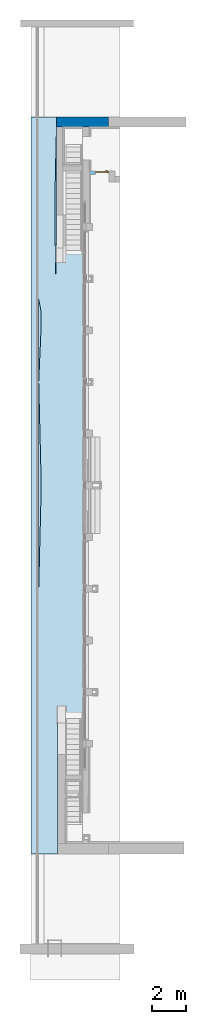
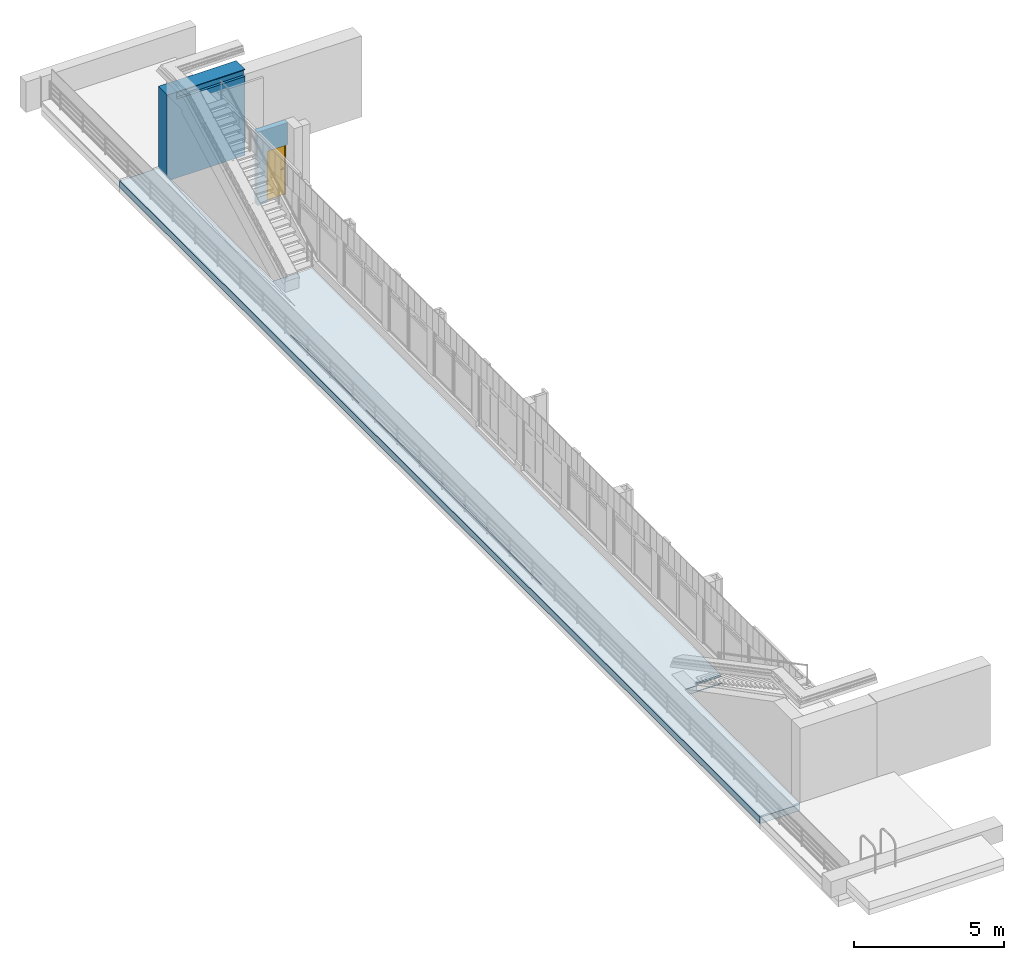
# One storey, part 12 of 16: 1 door, 1 roof, 1 wall, 1 opening, plus 1 element that does not belong to this part.
"""IFC2X3 building model written with IfcOpenShell, lengths in millimetres."""

import ifcopenshell
import ifcopenshell.guid

model = None  # the IFC model being written
_history = None  # IfcOwnerHistory: only IFC2X3 demands one
_inside = {}  # id of a spatial element -> (the spatial element, [elements in it])
_under = {}  # id of a project, library or spatial element -> (it, [spatial elements below it])
_declared = {}  # id of a project -> (the project, [libraries it declares])
_typed = {}  # id of a type object -> (the type object, [elements of that type])
_made_of = {}  # id of a material, layer set ... -> (it, [elements and type objects made of it])


def new_model(schema):
    """Start an empty IFC model of exactly this schema.

    Asked for "IFC4X3", IfcOpenShell would pick the latest addendum, in which some entities
    have other attributes; the version numbers below select the first issue.
    IFC2X3 requires an IfcOwnerHistory on every rooted entity: one is made here for all.
    """
    global model, _history
    if schema == "IFC4X3":
        model = ifcopenshell.file(schema_version=(4, 3, 0, 0))
    else:
        model = ifcopenshell.file(schema=schema)
    _inside.clear()
    _under.clear()
    _declared.clear()
    _typed.clear()
    _made_of.clear()
    _history = None
    if model.schema == "IFC2X3":
        org = make("IfcOrganization", Name="unknown")
        user = make(
            "IfcPersonAndOrganization",
            ThePerson=make("IfcPerson", FamilyName="unknown"),
            TheOrganization=org,
        )
        app = make(
            "IfcApplication",
            ApplicationDeveloper=org,
            Version="unknown",
            ApplicationFullName="unknown",
            ApplicationIdentifier="unknown",
        )
        _history = make(
            "IfcOwnerHistory",
            OwningUser=user,
            OwningApplication=app,
            ChangeAction="ADDED",
            CreationDate=0,
        )
    return model


def make(cls, **values):
    """One entity of the class cls with the attributes given. An attribute that is None is left unset."""
    return model.create_entity(
        cls, **{name: value for name, value in values.items() if value is not None}
    )


def entity(cls, *values):
    """Any entity or typed value of the class cls, its attributes in the order of the schema. None: left unset."""
    e = model.create_entity(cls)
    for i, value in enumerate(values):
        if value is not None:
            e[i] = value
    return e


def rooted(cls, **values):
    """An entity with a GlobalId (a new one), such as an element, a storey or a relation."""
    return make(cls, GlobalId=ifcopenshell.guid.new(), OwnerHistory=_history, **values)


def si_unit(unit_type, name, prefix=None):
    """IfcSIUnit, for example si_unit("LENGTHUNIT", "METRE", prefix="MILLI")."""
    return make("IfcSIUnit", UnitType=unit_type, Prefix=prefix, Name=name)


def converted_unit(unit_type, name, factor, base, dimensions=None, offset=None):
    """IfcConversionBasedUnit, such as the inch: factor (a typed value) times the base unit."""
    return make(
        "IfcConversionBasedUnit"
        if offset is None
        else "IfcConversionBasedUnitWithOffset",
        ConversionOffset=offset,
        Dimensions=None
        if dimensions is None
        else entity("IfcDimensionalExponents", *dimensions),
        UnitType=unit_type,
        Name=name,
        ConversionFactor=make(
            "IfcMeasureWithUnit", ValueComponent=factor, UnitComponent=base
        ),
    )


def derived_unit(unit_type, elements):
    """IfcDerivedUnit: a product of units, each with its exponent."""
    return make(
        "IfcDerivedUnit",
        Elements=[
            make("IfcDerivedUnitElement", Unit=unit, Exponent=power)
            for unit, power in elements
        ],
        UnitType=unit_type,
    )


def assignment(units):
    """IfcUnitAssignment: the units of a project."""
    return None if units is None else make("IfcUnitAssignment", Units=units)


def point(xyz):
    """IfcCartesianPoint."""
    return None if xyz is None else make("IfcCartesianPoint", Coordinates=xyz)


def direction(xyz):
    """IfcDirection."""
    return None if xyz is None else make("IfcDirection", DirectionRatios=xyz)


def frame(location, z_axis=None, x_axis=None):
    """IfcAxis2Placement3D, a coordinate frame: its origin and axes. An axis left out is left unset."""
    return make(
        "IfcAxis2Placement3D",
        Location=point(location),
        Axis=direction(z_axis),
        RefDirection=direction(x_axis),
    )


def frame_2d(location, x_axis=None):
    """IfcAxis2Placement2D, a coordinate frame in the plane: its origin and x axis."""
    return make(
        "IfcAxis2Placement2D", Location=point(location), RefDirection=direction(x_axis)
    )


def origin():
    """The frame at (0, 0, 0) with its axes left unset."""
    return frame((0.0, 0.0, 0.0))


def place(relative_to, where):
    """IfcLocalPlacement: puts the frame where relative to a parent placement (None: the world)."""
    return make(
        "IfcLocalPlacement", PlacementRelTo=relative_to, RelativePlacement=where
    )


def context(
    kind, dimensions, precision=None, world=None, true_north=None, identifier=None
):
    """IfcGeometricRepresentationContext, for example the 3D "Model" context."""
    return make(
        "IfcGeometricRepresentationContext",
        ContextIdentifier=identifier,
        ContextType=kind,
        CoordinateSpaceDimension=dimensions,
        Precision=precision,
        WorldCoordinateSystem=world,
        TrueNorth=true_north,
    )


def subcontext(parent, identifier, kind, view, scale=None):
    """IfcGeometricRepresentationSubContext, for example "Body" below "Model"."""
    return make(
        "IfcGeometricRepresentationSubContext",
        ContextIdentifier=identifier,
        ContextType=kind,
        ParentContext=parent,
        TargetScale=scale,
        TargetView=view,
    )


def project(units=None, contexts=None):
    """IfcProject with its units and contexts."""
    return rooted(
        "IfcProject",
        Name="project",
        RepresentationContexts=contexts,
        UnitsInContext=assignment(units),
    )


def spatial(cls, under=None, at=None, **own):
    """A site, building, storey or space (cls), placed at a placement, below another one or the project."""
    s = rooted(cls, ObjectPlacement=at, **own)
    if under is not None:
        _under.setdefault(under.id(), (under, []))[1].append(s)
    return s


def profile(cls, at=None, kind="AREA", **sizes):
    """A parametric profile (cls). Its sizes go by their IFC names, for example OverallWidth=200.0."""
    return make(cls, ProfileType=kind, Position=at, **sizes)


def rectangle(**sizes):
    """IfcRectangleProfileDef."""
    return profile("IfcRectangleProfileDef", **sizes)


def extrude(swept, where, along, depth):
    """IfcExtrudedAreaSolid: the profile swept, set in the frame where, extruded along a direction by depth."""
    return make(
        "IfcExtrudedAreaSolid",
        SweptArea=swept,
        Position=where,
        ExtrudedDirection=direction(along),
        Depth=depth,
    )


def faces_of(points, faces, orient=None, outer=None):
    """IfcFace entities. A face is a list of loops; a loop is a list of indices into points, from 0.

    orient and outer hold one flag for each loop. By default every Orientation is true, the
    first loop of a face is its IfcFaceOuterBound and the others are IfcFaceBound.
    """
    made = []
    for i, loops in enumerate(faces):
        bounds = []
        for j, loop in enumerate(loops):
            is_outer = j == 0 if outer is None else outer[i][j]
            bounds.append(
                make(
                    "IfcFaceOuterBound" if is_outer else "IfcFaceBound",
                    Bound=make("IfcPolyLoop", Polygon=[points[k] for k in loop]),
                    Orientation=True if orient is None else orient[i][j],
                )
            )
        made.append(make("IfcFace", Bounds=bounds))
    return made


def faceted_brep(points, faces, orient=None, outer=None, voids=None):
    """IfcFacetedBrep: a solid bounded by flat faces; with voids (closed shells), ...WithVoids."""
    shared = [point(p) for p in points]
    hull = make("IfcClosedShell", CfsFaces=faces_of(shared, faces, orient, outer))
    if voids is None:
        return make("IfcFacetedBrep", Outer=hull)
    return make(
        "IfcFacetedBrepWithVoids",
        Outer=hull,
        Voids=[
            make(cls, CfsFaces=faces_of(shared, fs, o, b)) for cls, fs, o, b in voids
        ],
    )


def shape(context_of_items, identifier, shape_type, items):
    """IfcShapeRepresentation: the items that make up one representation, for example the "Body"."""
    return make(
        "IfcShapeRepresentation",
        ContextOfItems=context_of_items,
        RepresentationIdentifier=identifier,
        RepresentationType=shape_type,
        Items=items,
    )


def source(mapping_origin, context_of_items, identifier, shape_type, items):
    """IfcRepresentationMap: a shape defined once, which mapped items show again and again."""
    return make(
        "IfcRepresentationMap",
        MappingOrigin=mapping_origin,
        MappedRepresentation=shape(context_of_items, identifier, shape_type, items),
    )


def transform(
    local_origin,
    x_axis=None,
    y_axis=None,
    z_axis=None,
    scale=None,
    scale2=None,
    scale3=None,
    uniform=True,
):
    """IfcCartesianTransformationOperator3D, or its non-uniform kind. x_axis, y_axis, z_axis: its Axis1, 2, 3."""
    if uniform:
        return make(
            "IfcCartesianTransformationOperator3D",
            Axis1=direction(x_axis),
            Axis2=direction(y_axis),
            LocalOrigin=point(local_origin),
            Scale=scale,
            Axis3=direction(z_axis),
        )
    return make(
        "IfcCartesianTransformationOperator3DnonUniform",
        Axis1=direction(x_axis),
        Axis2=direction(y_axis),
        LocalOrigin=point(local_origin),
        Scale=scale,
        Axis3=direction(z_axis),
        Scale2=scale2,
        Scale3=scale3,
    )


def mapped(mapping_source, mapping_target):
    """IfcMappedItem: shows the shape of a source again, moved by a transform."""
    return make(
        "IfcMappedItem", MappingSource=mapping_source, MappingTarget=mapping_target
    )


def material(Name=None, Category=None):
    """IfcMaterial."""
    return make("IfcMaterial", Name=Name, Category=Category)


def material_list(materials):
    """IfcMaterialList."""
    return make("IfcMaterialList", Materials=materials)


def layer(
    of_material, thickness, ventilated=None, Name=None, Category=None, Priority=None
):
    """IfcMaterialLayer: one layer of a wall or slab, of a material (None: an air gap)."""
    return make(
        "IfcMaterialLayer",
        Material=of_material,
        LayerThickness=thickness,
        IsVentilated=ventilated,
        Name=Name,
        Category=Category,
        Priority=Priority,
    )


def layer_set(layers, Name=None):
    """IfcMaterialLayerSet."""
    return make("IfcMaterialLayerSet", MaterialLayers=layers, LayerSetName=Name)


def layer_usage(for_layer_set, set_direction, sense, offset, extent=None):
    """IfcMaterialLayerSetUsage: how a layer set lies in its element."""
    return make(
        "IfcMaterialLayerSetUsage",
        ForLayerSet=for_layer_set,
        LayerSetDirection=set_direction,
        DirectionSense=sense,
        OffsetFromReferenceLine=offset,
        ReferenceExtent=extent,
    )


def made_of(thing, what):
    """Note that an element or type object is made of a material, layer set ...; save() writes the relation."""
    if what is not None:
        _made_of.setdefault(what.id(), (what, []))[1].append(thing)
    return thing


def type_object(cls, material=None, **own):
    """A type object (cls), such as IfcWallType, which elements share."""
    return made_of(rooted(cls, **own), material)


def type_shapes(of_type, sources):
    """Give a type object the sources (RepresentationMaps) that its elements show as mapped items."""
    of_type.RepresentationMaps = sources


def element(
    cls,
    number,
    at=None,
    inside=None,
    cuts=None,
    type_object=None,
    material=None,
    context=None,
    identifier="Body",
    shape_type=None,
    held_by="IfcProductDefinitionShape",
    body=None,
    shapes=None,
    **own,
):
    """One element of the class cls, such as IfcWall. Its Tag is "e" and its number.

    at: its placement. inside: the storey or other place that contains it. cuts: it is an
    opening in that element (IfcRelVoidsElement). A single representation is given by context,
    identifier, shape_type and body (its items); several are given by shapes. held_by: the class
    of the entity that holds the representations. save() writes the other relations.
    """
    e = rooted(cls, Tag="e%d" % number, ObjectPlacement=at, **own)
    if body is not None:
        shapes = [shape(context, identifier, shape_type, body)]
    if shapes is not None:
        e.Representation = make(held_by, Representations=shapes)
    if inside is not None:
        _inside.setdefault(inside.id(), (inside, []))[1].append(e)
    if cuts is not None:
        rooted(
            "IfcRelVoidsElement", RelatingBuildingElement=cuts, RelatedOpeningElement=e
        )
    if type_object is not None:
        _typed.setdefault(type_object.id(), (type_object, []))[1].append(e)
    return made_of(e, material)


def fill(opening, filler):
    """IfcRelFillsElement: the door or window that sits in an opening."""
    return rooted(
        "IfcRelFillsElement",
        RelatingOpeningElement=opening,
        RelatedBuildingElement=filler,
    )


def aggregate(whole, parts):
    """IfcRelAggregates: a whole, such as a stair, and the parts it consists of."""
    return rooted("IfcRelAggregates", RelatingObject=whole, RelatedObjects=parts)


def save(model, path):
    """Write the relations noted so far, then the file.

    IfcRelAggregates (storeys below a building ...), IfcRelContainedInSpatialStructure (elements
    in a storey), IfcRelDefinesByType, IfcRelAssociatesMaterial and IfcRelDeclares: one each for
    every whole, place, type object, material and project.
    """
    for whole, parts in _under.values():
        aggregate(whole, parts)
    for where, things in _inside.values():
        rooted(
            "IfcRelContainedInSpatialStructure",
            RelatedElements=things,
            RelatingStructure=where,
        )
    for kind, things in _typed.values():
        rooted("IfcRelDefinesByType", RelatedObjects=things, RelatingType=kind)
    for what, things in _made_of.values():
        rooted("IfcRelAssociatesMaterial", RelatedObjects=things, RelatingMaterial=what)
    for by, libraries in _declared.values():
        rooted("IfcRelDeclares", RelatingContext=by, RelatedDefinitions=libraries)
    model.write(path)


model = new_model("IFC2X3")

# Units and contexts
model_context = context("Model", 3, precision=0.01, world=origin(), true_north=direction((6.123031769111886e-17, 1.0)))
body_context = subcontext(model_context, "Body", "Model", "MODEL_VIEW")
ifc_project = project(units=[si_unit("LENGTHUNIT", "METRE", prefix="MILLI"), si_unit("AREAUNIT", "SQUARE_METRE"), si_unit("VOLUMEUNIT", "CUBIC_METRE"), converted_unit("PLANEANGLEUNIT", "DEGREE", entity("IfcPlaneAngleMeasure", 0.017453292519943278), si_unit("PLANEANGLEUNIT", "RADIAN"), dimensions=[0, 0, 0, 0, 0, 0, 0]), si_unit("MASSUNIT", "GRAM", prefix="KILO"), derived_unit("MASSDENSITYUNIT", [(si_unit("MASSUNIT", "GRAM", prefix="KILO"), 1), (si_unit("LENGTHUNIT", "METRE"), -3)]), derived_unit("IONCONCENTRATIONUNIT", [(si_unit("MASSUNIT", "GRAM", prefix="KILO"), 1), (si_unit("LENGTHUNIT", "METRE"), -3)]), derived_unit("MOMENTOFINERTIAUNIT", [(si_unit("LENGTHUNIT", "METRE"), 4)]), si_unit("TIMEUNIT", "SECOND"), si_unit("FREQUENCYUNIT", "HERTZ"), si_unit("THERMODYNAMICTEMPERATUREUNIT", "DEGREE_CELSIUS"), derived_unit("THERMALTRANSMITTANCEUNIT", [(si_unit("MASSUNIT", "GRAM", prefix="KILO"), 1), (si_unit("THERMODYNAMICTEMPERATUREUNIT", "KELVIN"), -1), (si_unit("TIMEUNIT", "SECOND"), -3)]), derived_unit("THERMALCONDUCTANCEUNIT", [(si_unit("MASSUNIT", "GRAM", prefix="KILO"), 1), (si_unit("THERMODYNAMICTEMPERATUREUNIT", "KELVIN"), -1), (si_unit("TIMEUNIT", "SECOND"), -3), (si_unit("LENGTHUNIT", "METRE"), 1)]), derived_unit("VOLUMETRICFLOWRATEUNIT", [(si_unit("LENGTHUNIT", "METRE", prefix="DECI"), 3), (si_unit("TIMEUNIT", "SECOND"), -1)]), derived_unit("MASSFLOWRATEUNIT", [(si_unit("MASSUNIT", "GRAM", prefix="KILO"), 1), (si_unit("TIMEUNIT", "SECOND"), -1)]), derived_unit("ROTATIONALFREQUENCYUNIT", [(si_unit("TIMEUNIT", "SECOND"), -1)]), si_unit("ELECTRICCURRENTUNIT", "AMPERE"), si_unit("ELECTRICVOLTAGEUNIT", "VOLT"), si_unit("POWERUNIT", "WATT"), si_unit("FORCEUNIT", "NEWTON", prefix="KILO"), si_unit("ILLUMINANCEUNIT", "LUX"), si_unit("LUMINOUSFLUXUNIT", "LUMEN"), si_unit("LUMINOUSINTENSITYUNIT", "CANDELA"), si_unit("ENERGYUNIT", "JOULE"), derived_unit("USERDEFINED", [(si_unit("MASSUNIT", "GRAM", prefix="KILO"), -1), (si_unit("LENGTHUNIT", "METRE"), -2), (si_unit("TIMEUNIT", "SECOND"), 3), (si_unit("LUMINOUSFLUXUNIT", "LUMEN"), 1)]), derived_unit("USERDEFINED", [(si_unit("MASSUNIT", "GRAM", prefix="KILO"), 1), (si_unit("TIMEUNIT", "SECOND"), -3), (si_unit("LENGTHUNIT", "METRE"), 3), (si_unit("ELECTRICCURRENTUNIT", "AMPERE"), -2)]), derived_unit("SOUNDPOWERUNIT", [(si_unit("MASSUNIT", "GRAM", prefix="KILO"), 1), (si_unit("TIMEUNIT", "SECOND"), -3), (si_unit("LENGTHUNIT", "METRE"), 2)]), derived_unit("SOUNDPRESSUREUNIT", [(si_unit("MASSUNIT", "GRAM", prefix="KILO"), 1), (si_unit("LENGTHUNIT", "METRE"), -1), (si_unit("TIMEUNIT", "SECOND"), -2)]), derived_unit("LINEARVELOCITYUNIT", [(si_unit("LENGTHUNIT", "METRE"), 1), (si_unit("TIMEUNIT", "SECOND"), -1)]), si_unit("PRESSUREUNIT", "PASCAL"), derived_unit("USERDEFINED", [(si_unit("MASSUNIT", "GRAM", prefix="KILO"), 1), (si_unit("LENGTHUNIT", "METRE"), -2), (si_unit("TIMEUNIT", "SECOND"), -2)]), derived_unit("LINEARFORCEUNIT", [(si_unit("MASSUNIT", "GRAM", prefix="KILO"), 1), (si_unit("TIMEUNIT", "SECOND"), -2)]), derived_unit("PLANARFORCEUNIT", [(si_unit("MASSUNIT", "GRAM", prefix="KILO"), 1), (si_unit("LENGTHUNIT", "METRE"), -1), (si_unit("TIMEUNIT", "SECOND"), -2)]), derived_unit("SPECIFICHEATCAPACITYUNIT", [(si_unit("THERMODYNAMICTEMPERATUREUNIT", "KELVIN"), -1), (si_unit("LENGTHUNIT", "METRE"), 2), (si_unit("TIMEUNIT", "SECOND"), -2)]), derived_unit("HEATFLUXDENSITYUNIT", [(si_unit("MASSUNIT", "GRAM", prefix="KILO"), 1), (si_unit("TIMEUNIT", "SECOND"), -3)]), derived_unit("HEATINGVALUEUNIT", [(si_unit("LENGTHUNIT", "METRE"), 2), (si_unit("TIMEUNIT", "SECOND"), -2)]), derived_unit("VAPORPERMEABILITYUNIT", [(si_unit("LENGTHUNIT", "METRE"), -1), (si_unit("TIMEUNIT", "SECOND"), 1)]), derived_unit("DYNAMICVISCOSITYUNIT", [(si_unit("MASSUNIT", "GRAM", prefix="KILO"), 1), (si_unit("TIMEUNIT", "SECOND"), -1), (si_unit("LENGTHUNIT", "METRE"), -1)]), derived_unit("THERMALEXPANSIONCOEFFICIENTUNIT", [(si_unit("THERMODYNAMICTEMPERATUREUNIT", "KELVIN"), -1)]), derived_unit("MODULUSOFELASTICITYUNIT", [(si_unit("MASSUNIT", "GRAM", prefix="KILO"), 1), (si_unit("LENGTHUNIT", "METRE"), -1), (si_unit("TIMEUNIT", "SECOND"), -2)]), derived_unit("ISOTHERMALMOISTURECAPACITYUNIT", [(si_unit("MASSUNIT", "GRAM", prefix="KILO"), -1), (si_unit("LENGTHUNIT", "METRE"), 3)]), derived_unit("MOISTUREDIFFUSIVITYUNIT", [(si_unit("TIMEUNIT", "SECOND"), -1), (si_unit("LENGTHUNIT", "METRE"), 2)]), derived_unit("MASSPERLENGTHUNIT", [(si_unit("MASSUNIT", "GRAM", prefix="KILO"), 1), (si_unit("LENGTHUNIT", "METRE"), -1)]), derived_unit("THERMALRESISTANCEUNIT", [(si_unit("MASSUNIT", "GRAM", prefix="KILO"), -1), (si_unit("TIMEUNIT", "SECOND"), 3), (si_unit("THERMODYNAMICTEMPERATUREUNIT", "KELVIN"), 1)]), derived_unit("ACCELERATIONUNIT", [(si_unit("LENGTHUNIT", "METRE"), 1), (si_unit("TIMEUNIT", "SECOND"), -2)]), derived_unit("ANGULARVELOCITYUNIT", [(si_unit("TIMEUNIT", "SECOND"), -1), (si_unit("PLANEANGLEUNIT", "RADIAN"), 1)]), derived_unit("LINEARSTIFFNESSUNIT", [(si_unit("MASSUNIT", "GRAM", prefix="KILO"), 1), (si_unit("TIMEUNIT", "SECOND"), -2)]), derived_unit("WARPINGCONSTANTUNIT", [(si_unit("LENGTHUNIT", "METRE"), 6)]), derived_unit("LINEARMOMENTUNIT", [(si_unit("MASSUNIT", "GRAM", prefix="KILO"), 1), (si_unit("LENGTHUNIT", "METRE"), 1), (si_unit("TIMEUNIT", "SECOND"), -2)]), derived_unit("TORQUEUNIT", [(si_unit("MASSUNIT", "GRAM", prefix="KILO"), 1), (si_unit("LENGTHUNIT", "METRE"), 2), (si_unit("TIMEUNIT", "SECOND"), -2)])], contexts=[model_context])

# Site, building, storey
site_placement = place(None, origin())
site = spatial("IfcSite", under=ifc_project, at=site_placement, Name="Default", CompositionType="ELEMENT")
building_placement = place(site_placement, origin())
building = spatial("IfcBuilding", under=site, at=building_placement, Name="Eesti Rahvusraamatukogu hoone renoveerimise projekteerimistööd", CompositionType="ELEMENT")
storey_placement = place(building_placement, frame((0.0, 0.0, 8250.000000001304)))
storey = spatial("IfcBuildingStorey", under=building, at=storey_placement, Name="3. korrus", CompositionType="ELEMENT", Elevation=8250.000000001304)

# Wall
ifc_material_1 = material(Name="ol. olev materjal")
ifc_layer_1 = layer(ifc_material_1, 590.0)
ifc_layer_set_1 = layer_set([ifc_layer_1], Name="Basic Wall:ol. olev - 590mm")
wall_type_1 = type_object("IfcWallType", Name="Basic Wall:ol. olev - 590mm", PredefinedType="STANDARD", material=ifc_layer_set_1)
wall_1_placement = place(storey_placement, frame((-35280.0, 48485.0, 0.0)))
element("IfcWall", 1, at=wall_1_placement, inside=storey, type_object=wall_type_1, Name="Basic Wall:ol. olev - 590mm", ObjectType="Basic Wall:ol. olev - 590mm", context=body_context, shape_type="Brep", body=[
    faceted_brep([(0.0, -295.0, 0.0), (360.0, -295.0, 0.0), (1510.0, -295.0, 0.0), (1890.0, -295.0, 0.0), (3000.0, -295.0, 0.0), (3000.0, -295.0, 3220.0), (360.0, -295.0, 3220.0), (360.0, -295.0, 3490.0), (555.5040098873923, -295.0, 3490.0), (671.9585479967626, -295.0, 3487.7026089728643), (2868.1415929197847, -295.0, 3486.439720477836), (2997.478727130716, -295.0, 3488.1395348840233), (3000.0, -295.0, 3489.371683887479), (3000.0, -295.0, 3510.0), (360.0, -295.0, 3510.0), (0.0, -295.0, 3510.0), (3000.0, 295.0, 0.0), (0.0, 295.0, 0.0), (0.0, 295.0, 3510.0), (3000.0, 295.0, 3510.0), (3000.0, 295.0, 3300.0), (3000.0, -235.0, 3510.0), (0.0, -235.0, 3510.0), (3000.0, -195.0, 3490.0), (3000.0, -195.0, 3220.0), (360.0, -195.0, 3220.0), (360.0, -195.0, 3490.0), (556.561291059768, -233.64219009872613, 3490.0)], [[[0, 1, 2, 3, 4, 5, 6, 7, 8, 9, 10, 11, 12, 13, 14, 15]], [[16, 17, 18, 19, 20]], [[4, 3, 2, 1, 0, 17, 16]], [[15, 14, 13, 21, 19, 18, 22]], [[0, 15, 22, 18, 17]], [[4, 16, 20, 19, 21, 13, 12, 23, 24, 5]], [[24, 25, 6, 5]], [[25, 24, 23, 26]], [[25, 26, 7, 6]], [[11, 23, 12]], [[23, 11, 10]], [[27, 9, 8]], [[27, 23, 10, 9]], [[26, 23, 27, 8, 7]]]),
])

# Wall, opening, door
ifc_layer_2 = layer(ifc_material_1, 200.0)
ifc_layer_set_2 = layer_set([ifc_layer_2], Name="Basic Wall:ol. olev - 200mm")
ifc_layer_usage = layer_usage(ifc_layer_set_2, "AXIS2", "NEGATIVE", 100.0)
wall_type_2 = type_object("IfcWallType", Name="Basic Wall:ol. olev - 200mm", PredefinedType="STANDARD", material=ifc_layer_set_2)
wall_2_placement = place(storey_placement, frame((-32230.0, 45530.0, 0.0), z_axis=(0.0, 0.0, 1.0), x_axis=(-1.0, 0.0, 0.0)))
wall_2 = element("IfcWallStandardCase", 2, at=wall_2_placement, inside=storey, type_object=wall_type_2, material=ifc_layer_usage, Name="Basic Wall:ol. olev - 200mm", ObjectType="Basic Wall:ol. olev - 200mm", context=body_context, shape_type="SweptSolid", body=[
    extrude(rectangle(XDim=1160.0000000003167, YDim=200.0000000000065, at=frame_2d((580.0000000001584, -7.958078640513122e-13), x_axis=(-1.0, 0.0))), origin(), (0.0, 0.0, 1.0), 3000.0000000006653),
])
opening_placement = place(wall_2_placement, frame((800.0, 100.0, 0.0)))
opening = element("IfcOpeningElement", 3, at=opening_placement, cuts=wall_2, Name="SMA_D01, 1-poolne:ol. olev MKU-15 - 800x2100:1", ObjectType="Opening", context=body_context, shape_type="SweptSolid", body=[
    extrude(rectangle(XDim=2099.999999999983, YDim=799.9999999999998, at=frame_2d((1049.999999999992, 400.0000000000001), x_axis=(1.0, 0.0))), frame((0.0, 0.0, 0.0), z_axis=(0.0, -1.0, 0.0), x_axis=(0.0, 0.0, 1.0)), (0.0, 0.0, 1.0), 200.0),
])
ifc_material_2 = material(Name="EST. Metall. Alumiinium. Värvitud.")
ifc_material_3 = material(Name="ol. olev - voolikukapp, MK uksed, elemendid")
ifc_material_list = material_list([ifc_material_2, ifc_material_3])
door_style = type_object("IfcDoorStyle", Name="SMA_D01, 1-poolne:ol. olev MKU-15 - 800x2100", ConstructionType="NOTDEFINED", OperationType="NOTDEFINED", ParameterTakesPrecedence=False, Sizeable=False, material=ifc_material_list)
shared_shape = source(origin(), body_context, "Body", "Brep", [
    faceted_brep([(690.0, 90.0, 1112.5), (595.0, 90.0, 1112.5), (595.0, 85.0, 1112.5), (715.0, 85.0, 1112.5), (715.0, 128.0, 1112.5), (690.0, 128.0, 1112.5), (690.0, 90.0, 1087.5), (690.0, 128.0, 1087.5), (715.0, 128.0, 1087.5), (715.0, 85.0, 1087.5), (595.0, 85.0, 1087.5), (595.0, 90.0, 1087.5)], [[[0, 1, 2, 3, 4, 5]], [[6, 7, 8, 9, 10, 11]], [[5, 7, 6, 0]], [[4, 8, 7, 5]], [[3, 9, 8, 4]], [[2, 10, 9, 3]], [[1, 11, 10, 2]], [[0, 6, 11, 1]]]),
    faceted_brep([(677.5000000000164, 128.0, 1137.5), (727.5000000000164, 128.0, 1137.5), (727.5000000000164, 130.0, 1137.5), (677.5000000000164, 130.0, 1137.5), (677.5000000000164, 128.0, 1017.5), (677.5000000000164, 130.0, 1017.5), (727.5000000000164, 130.0, 1017.5), (727.5000000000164, 128.0, 1017.5)], [[[0, 1, 2, 3]], [[4, 5, 6, 7]], [[3, 5, 4, 0]], [[2, 6, 5, 3]], [[1, 7, 6, 2]], [[0, 4, 7, 1]]]),
    faceted_brep([(690.0, 220.0, 1112.5), (690.0, 182.0, 1112.5), (715.0, 182.0, 1112.5), (715.0, 225.0, 1112.5), (595.0, 225.0, 1112.5), (595.0, 220.0, 1112.5), (690.0, 220.0, 1087.5), (595.0, 220.0, 1087.5), (595.0, 225.0, 1087.5), (715.0, 225.0, 1087.5), (715.0, 182.0, 1087.5), (690.0, 182.0, 1087.5)], [[[0, 1, 2, 3, 4, 5]], [[6, 7, 8, 9, 10, 11]], [[1, 0, 6, 11]], [[2, 1, 11, 10]], [[3, 2, 10, 9]], [[4, 3, 9, 8]], [[5, 4, 8, 7]], [[0, 5, 7, 6]]]),
    faceted_brep([(677.5000000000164, 182.0, 1137.5), (677.5000000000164, 180.0, 1137.5), (727.5000000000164, 180.0, 1137.5), (727.5000000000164, 182.0, 1137.5), (677.5000000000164, 182.0, 1017.5), (727.5000000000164, 182.0, 1017.5), (727.5000000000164, 180.0, 1017.5), (677.5000000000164, 180.0, 1017.5)], [[[0, 1, 2, 3]], [[4, 5, 6, 7]], [[1, 0, 4, 7]], [[2, 1, 7, 6]], [[3, 2, 6, 5]], [[0, 3, 5, 4]]]),
    faceted_brep([(10.0, 90.0, 0.0), (10.0, 180.0, 0.0), (35.0, 180.0, 0.0), (35.0, 130.0, 0.0), (50.0, 130.0, 0.0), (50.0, 90.0, 0.0), (50.0, 90.0, 2050.0), (750.0, 90.0, 2050.0), (750.0, 90.0, 0.0), (790.0, 90.0, 0.0), (790.0, 90.0, 2090.0), (10.0, 90.0, 2090.0), (50.0, 130.0, 2050.0), (35.0, 130.0, 2065.0), (765.0, 130.0, 2065.0), (765.0, 130.0, 0.0), (750.0, 130.0, 0.0), (750.0, 130.0, 2050.0), (35.0, 180.0, 2065.0), (10.0, 180.0, 2090.0), (790.0, 180.0, 2090.0), (790.0, 180.0, 0.0), (765.0, 180.0, 0.0), (765.0, 180.0, 2065.0)], [[[0, 1, 2, 3, 4, 5]], [[5, 6, 7, 8, 9, 10, 11, 0]], [[4, 12, 6, 5]], [[3, 13, 14, 15, 16, 17, 12, 4]], [[2, 18, 13, 3]], [[1, 19, 20, 21, 22, 23, 18, 2]], [[0, 11, 19, 1]], [[9, 21, 20, 10]], [[8, 16, 15, 22, 21, 9]], [[7, 17, 16, 8]], [[14, 23, 22, 15]], [[6, 12, 17, 7]], [[13, 18, 23, 14]], [[10, 20, 19, 11]]]),
    faceted_brep([(765.0, 130.0, 2065.0), (35.0, 130.0, 2065.0), (35.0, 130.0, 20.0), (765.0, 130.0, 20.0), (765.0, 180.0, 2065.0), (765.0, 180.0, 20.0), (35.0, 180.0, 20.0), (35.0, 180.0, 2065.0)], [[[0, 1, 2, 3]], [[4, 5, 6, 7]], [[3, 5, 4, 0]], [[2, 6, 5, 3]], [[1, 7, 6, 2]], [[0, 4, 7, 1]]]),
])
type_shapes(door_style, [shared_shape])
door_placement = place(opening_placement, frame((0.0, 0.0, 0.0), z_axis=(0.0, 0.0, 1.0), x_axis=(-1.0, 0.0, 0.0)))
door = element("IfcDoor", 4, at=door_placement, inside=storey, type_object=door_style, material=ifc_material_list, Name="SMA_D01, 1-poolne:ol. olev MKU-15 - 800x2100", ObjectType="SMA_D01, 1-poolne:ol. olev MKU-15 - 800x2100", OverallHeight=2099.999999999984, OverallWidth=800.0, context=body_context, shape_type="MappedRepresentation", body=[
    mapped(shared_shape, transform((0.0, 0.0, 0.0), scale=1.0)),
])
fill(opening, door)

# Roof
ifc_material_4 = material(Name="EST. Betoon. Kohtvalu")
ifc_layer_3 = layer(ifc_material_4, 50.0)
ifc_material_5 = material(Name="EST. Soojustus. EPS 100 kaldekiht, PIR Kingspan Therma TP10 100mm")
ifc_layer_4 = layer(ifc_material_5, 220.0)
ifc_layer_set_3 = layer_set([ifc_layer_3, ifc_layer_4], Name="Basic Roof:KL-20 - käidav, betoonplaat")
roof_placement = place(storey_placement, frame((-36780.0, 6002.660586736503, -80.0)))
element("IfcRoof", 5, at=roof_placement, inside=storey, material=ifc_layer_set_3, Name="Basic Roof:KL-20 - käidav, betoonplaat", ObjectType="Basic Roof:KL-20 - käidav, betoonplaat", ShapeType="NOTDEFINED", context=body_context, shape_type="Brep", body=[
    faceted_brep([(1540.0, 0.0, 0.0), (0.0, 0.0, 0.0), (0.0, 42777.33941326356, 0.0), (1500.0, 42777.33941326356, 0.0), (1500.0, 39627.33941326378, 0.0), (1500.0000000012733, 35157.33941326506, 0.0), (1860.0, 35157.33941326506, 0.0), (1860.0, 34797.22392809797, 0.0), (3010.0, 34797.223928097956, 0.0), (3010.0, 8242.082541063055, 0.0), (2000.0, 8242.082541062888, 0.0), (2000.0, 7765.223984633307, 0.0), (3010.0, 7765.223984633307, 0.0), (3010.0, 7695.753377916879, 0.0), (1540.0, 7695.753377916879, 0.0), (1540.0, 4587.339413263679, 0.0), (0.0, 42777.33941326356, 270.0), (456.0000000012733, 42777.33941326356, 260.0), (1500.0, 42777.33941326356, 270.0), (0.0, 0.0, 270.0), (0.0, 15387.33941326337, 270.0), (0.0, 27387.339413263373, 270.0), (0.0, 32187.339413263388, 270.0), (3010.0, 7722.851771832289, 270.0), (3010.0, 35157.33941326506, 189.66082218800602), (3010.0, 35157.33941326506, 195.31187911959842), (3010.0, 35157.33941326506, 270.0), (3010.0, 35149.78200138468, 270.0), (3010.0, 32187.339413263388, 270.0), (3010.0, 27387.339413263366, 270.0), (3010.0, 15387.339413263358, 270.0), (3010.0, 7954.37311074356, 270.0), (3010.0, 7843.451814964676, 270.0), (3010.0, 7843.451814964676, 212.92357869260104), (3010.0, 7733.689466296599, 270.0), (1540.0, 0.0, 270.0), (456.0000000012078, 0.0, 260.0), (1500.0, 35157.33941326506, 270.0), (2030.0, 35157.33941326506, 270.0), (1860.0, 35157.33941326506, 189.66082218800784), (1540.0, 7695.753377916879, 270.0), (3010.0, 7695.753377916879, 36.124715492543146), (2000.0, 7695.753377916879, 36.1247154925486), (2000.0, 7695.753377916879, 270.0), (2000.0, 7722.851771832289, 270.0), (2000.0, 7733.689466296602, 270.0), (2000.0, 7843.451814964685, 212.92357869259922), (2000.0, 7843.451814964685, 268.58477392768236), (2000.0, 7776.682001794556, 270.0), (2379.5210221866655, 7843.451814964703, 270.0), (1391.5852666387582, 37987.33941326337, 190.0), (1391.5852666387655, 37360.54449402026, 190.0), (456.00000000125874, 32187.339413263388, 260.0), (1437.3613351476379, 33447.13792211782, 248.0), (3003.050480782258, 35149.78200138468, 269.9027815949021), (456.0000000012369, 27387.339413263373, 260.0), (456.0000000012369, 15387.339413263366, 260.0), (1591.5852666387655, 21887.33941326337, 190.0), (591.5852666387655, 21887.33941326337, 190.0), (1091.5852666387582, 21387.33941326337, 170.0), (1591.5852666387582, 20887.339413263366, 190.0), (591.5852666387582, 20887.339413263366, 190.0), (1591.5852666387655, 31487.339413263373, 190.0), (591.5852666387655, 31487.339413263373, 190.0), (1091.5852666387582, 30987.339413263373, 195.0), (1591.5852666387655, 30487.339413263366, 190.0), (591.5852666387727, 30487.339413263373, 190.0), (791.5852666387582, 37987.33941326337, 190.0), (1091.5852666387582, 37687.33941326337, 170.0), (791.5852666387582, 37360.54449402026, 190.0), (1391.0956987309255, 9687.339413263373, 190.0), (791.0956987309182, 9687.339413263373, 190.0), (1091.5852666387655, 9387.339413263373, 170.0), (1391.0956987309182, 9060.544494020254, 190.0), (791.095698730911, 9060.544494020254, 190.0), (2070.0, 8732.589413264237, 250.0)], [[[0, 1, 2, 3, 4, 5, 6, 7, 8, 9, 10, 11, 12, 13, 14, 15]], [[3, 2, 16, 17, 18]], [[2, 1, 19, 20, 21, 22, 16]], [[23, 9, 8, 24, 25, 26, 27, 28, 29, 30, 31, 32, 33, 34]], [[1, 0, 35, 36, 19]], [[5, 37, 38, 26, 25, 24, 39, 6]], [[5, 4, 3, 18, 37]], [[0, 15, 14, 40, 35]], [[14, 13, 41, 42, 43, 40]], [[10, 44, 43, 42, 11]], [[11, 42, 41, 12]], [[44, 10, 9, 23]], [[39, 7, 6]], [[7, 39, 24, 8]], [[45, 46, 47, 48]], [[33, 46, 45, 34]], [[46, 33, 32, 49, 47]], [[37, 18, 50, 51]], [[16, 22, 52, 17]], [[40, 43, 44, 23, 34, 45, 48]], [[26, 38, 37, 53, 54]], [[22, 21, 55, 52]], [[21, 20, 56, 55]], [[35, 40, 36]], [[57, 58, 59]], [[30, 29, 57, 60]], [[57, 59, 60]], [[60, 59, 61]], [[59, 58, 61]], [[62, 63, 64]], [[29, 28, 62, 65]], [[62, 64, 65]], [[29, 65, 55]], [[65, 64, 66]], [[64, 63, 66]], [[50, 67, 68]], [[67, 50, 18]], [[69, 51, 68]], [[68, 67, 69]], [[37, 51, 53]], [[50, 68, 51]], [[70, 71, 72]], [[70, 72, 73]], [[73, 72, 74]], [[72, 71, 74]], [[20, 19, 36, 56]], [[61, 58, 55, 56]], [[30, 60, 56]], [[57, 29, 55]], [[74, 71, 56, 36]], [[66, 63, 52, 55]], [[69, 67, 17, 52]], [[62, 28, 52]], [[67, 18, 17]], [[71, 70, 56]], [[73, 40, 75]], [[30, 56, 70]], [[30, 75, 31]], [[75, 40, 48, 47, 49, 31]], [[60, 61, 56]], [[58, 57, 55]], [[65, 66, 55]], [[63, 62, 52]], [[28, 27, 26, 54, 53]], [[69, 52, 53]], [[51, 69, 53]], [[52, 28, 53]], [[70, 73, 75]], [[70, 75, 30]], [[74, 36, 40]], [[73, 74, 40]], [[32, 31, 49]], [[13, 12, 41]]]),
])

save(model, "model.ifc")
